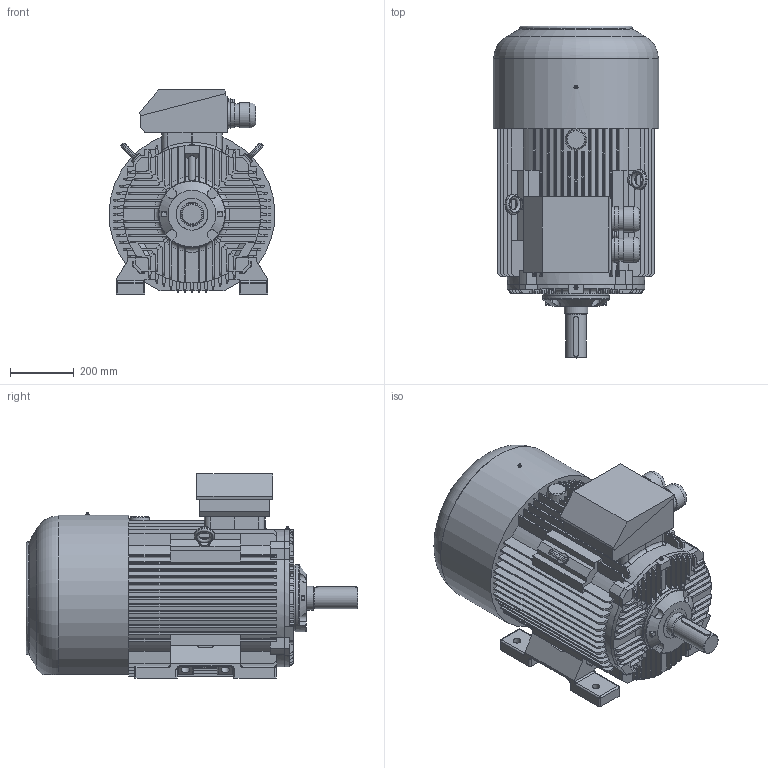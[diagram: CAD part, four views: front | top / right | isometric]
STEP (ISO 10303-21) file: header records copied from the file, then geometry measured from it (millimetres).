
FILE_DESCRIPTION(/* description */ ('Unknown'),/* implementation_level */ '2;1');
FILE_NAME(/* name */ '3SIE250M4_8',/* time_stamp */ '2021-04-12T13:10:34+02:00',/* author */ ('Unknown'),/* organization */ ('Unknown'),/* preprocessor_version */ 'ST-DEVELOPER v16.7',/* originating_system */ 'DEX',/* authorisation */ $);
FILE_SCHEMA (('AUTOMOTIVE_DESIGN {1 0 10303 214 3 1 1}'));
Length unit declared in the file: millimetre
Products named in the file (1): 2SIE250_M4_6 silnik
Bounding box: 519.62 x 1040 x 639.3 mm (x, y, z)
Volume: 159815812.9 mm3; surface area: 3578671.9 mm2
Topology: 3 solids, 6 shells, 1306 faces, 3468 edges, 2164 vertices
Faces by surface type: plane 723, cylinder 359, torus 96, bspline 70, sphere 48, cone 10
Full cylindrical faces by diameter (mm): 1.6 x2, 5 x6, 11.083 x1, 17.5 x4, 19 x1, 21 x1, 23 x1, 24 x4, 26 x4, 27 x1, 35 x4, 40 x2, 65 x1, 71.32 x2, 74.5 x1, 78.781 x2, 80.024 x2, 81.268 x2, 100 x1, 208 x1, 210 x1
Entity records: 50335 total; most frequent: CARTESIAN_POINT 9398, ORIENTED_EDGE 6636, DIRECTION 6601, EDGE_CURVE 3318, AXIS2_PLACEMENT_3D 2280, VERTEX_POINT 2132, LINE 2041, VECTOR 2041
